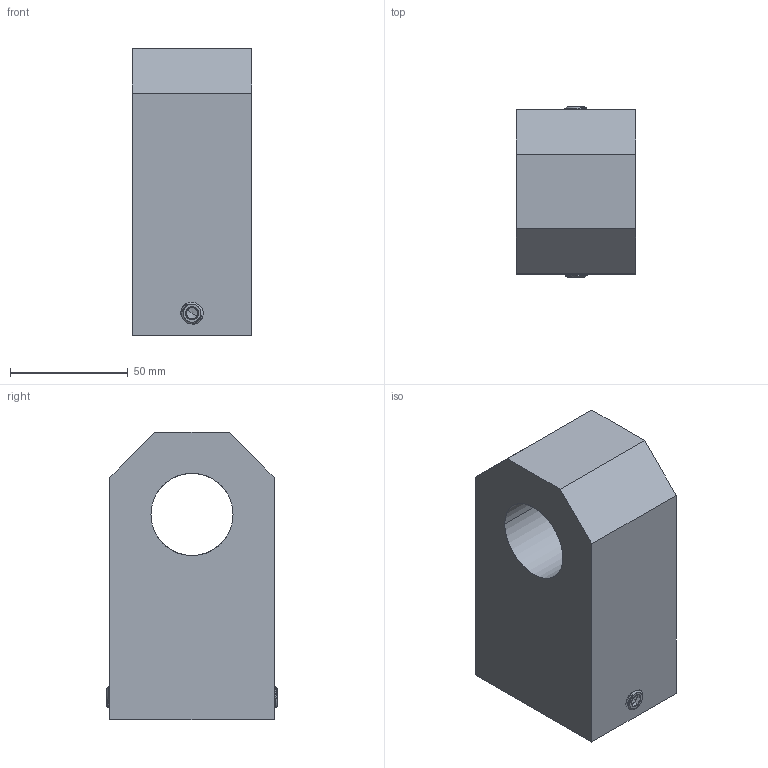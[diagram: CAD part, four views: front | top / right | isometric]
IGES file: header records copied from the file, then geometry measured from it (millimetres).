
Start section: SolidWorks IGES file using analytic representation for surfaces
Global section: file name: C:\Manufacturing Design Services\Taperline Manufacturing\Rod Eyes\RE 1375\RE 1375.IGS; native system: SolidWorks 2010; preprocessor: SolidWorks 2010; author: ProBook; date: 111205.222105; units: inch
Bounding box: 50.8 x 72.39 x 122.24 mm (x, y, z)
Surface area: 46353.7 mm2 (no closed solid volume)
Topology: 0 solids, 0 shells, 264 faces, 3544 edges, 3538 vertices
Faces by surface type: revolution 226, bspline 38
